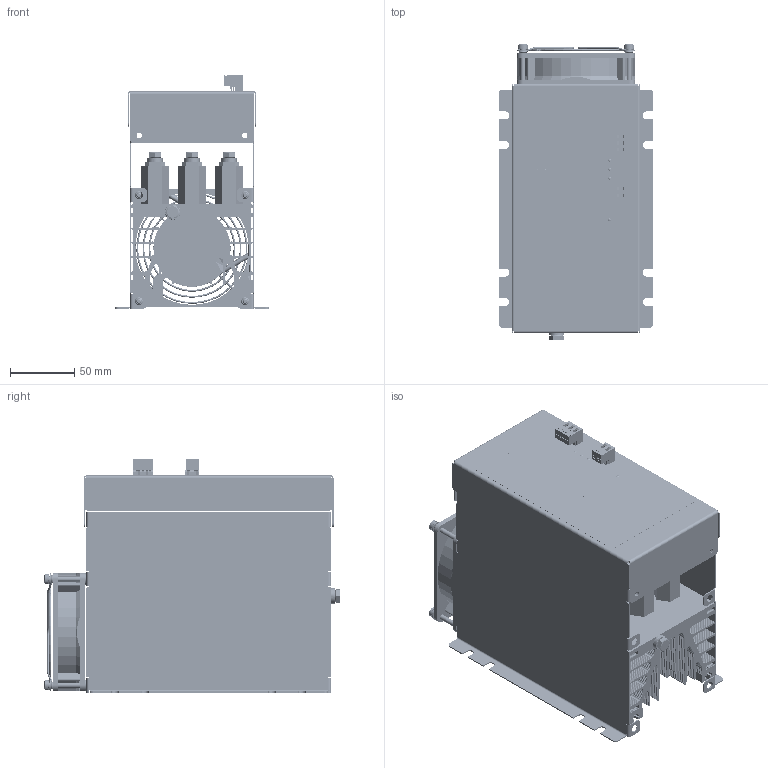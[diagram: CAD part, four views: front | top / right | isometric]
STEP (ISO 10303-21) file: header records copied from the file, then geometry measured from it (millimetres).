
FILE_DESCRIPTION(('STEP AP203'), '1');
FILE_NAME('ÌÒÊ 21-100-480 ÓÕË4', '2025-05-20T11:42:17', (''), ('ÎÎÎ "Ìåàíäð"'), 'C3D Converter', 'C3D Toolkit', '');
FILE_SCHEMA(('CONFIG_CONTROL_DESIGN'));
Length unit declared in the file: millimetre
Products named in the file (4): МТК; Болт М6х14; МТК-25-100 480
Assembly tree (9 placements, depth 2):
  МТК
    МТК
    Болт М6х14  x7
    МТК-25-100 480
Bounding box: 120 x 230.24 x 181.05 mm (x, y, z)
Volume: 702549.5 mm3; surface area: 529446.3 mm2
Topology: 12 solids, 20 shells, 7559 faces, 22042 edges, 14643 vertices
Faces by surface type: plane 4195, cylinder 2216, extrusion 946, bspline 92, torus 57, cone 41, sphere 12
Full cylindrical faces by diameter (mm): 1.414 x4, 3.3 x4, 3.9 x5, 4 x8, 4.2 x4, 4.3 x12, 5 x11, 6 x17, 6.1 x12, 6.4 x7, 8 x4, 8.9 x7, 9 x8, 9.1 x1, 10.01 x1, 12 x7, 43.5 x1, 60 x1, 88 x1
Entity records: 302560 total; most frequent: CARTESIAN_POINT 71016, ORIENTED_EDGE 42274, DIRECTION 36876, EDGE_CURVE 21137, VECTOR 15330, LINE 14384, VERTEX_POINT 14108, AXIS2_PLACEMENT_3D 10773
